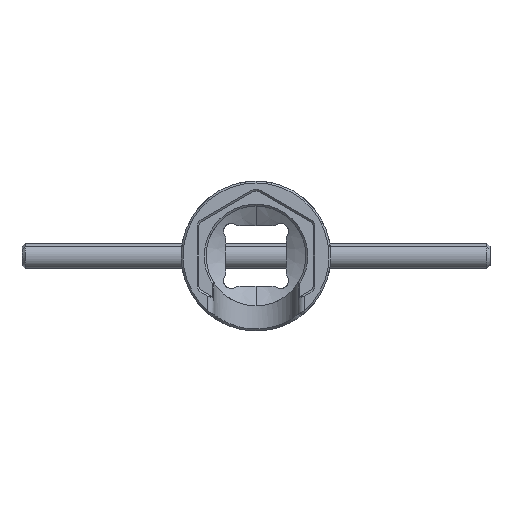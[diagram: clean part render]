
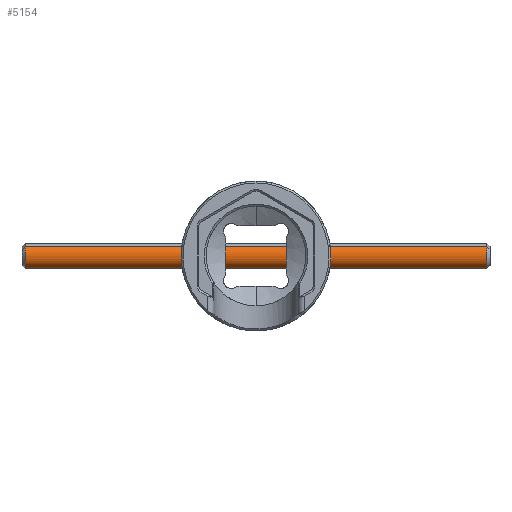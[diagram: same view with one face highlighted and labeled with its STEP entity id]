
A CAD part, front view. The second image highlights one B-rep face of the part: STEP entity #5154.
In plain terms, the highlighted cylindrical face has radius 2 mm (diameter 4 mm), a partial arc.
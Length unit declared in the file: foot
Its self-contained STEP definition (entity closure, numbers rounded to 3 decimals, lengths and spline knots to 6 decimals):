
#538 = CYLINDRICAL_SURFACE ( 'NONE', #5011, 0.006562 ) ;
#554 = DIRECTION ( 'NONE',  ( 1., 0., 0. ) ) ;
#591 = CARTESIAN_POINT ( 'NONE',  ( 0.123031, 0.16581, 0. ) ) ;
#1069 = LINE ( 'NONE', #9292, #4168 ) ;
#1166 = CARTESIAN_POINT ( 'NONE',  ( 0.121391, 0.161448, 0.004901 ) ) ;
#1343 = ORIENTED_EDGE ( 'NONE', *, *, #8592, .F. ) ;
#1352 = CARTESIAN_POINT ( 'NONE',  ( 0.123031, 0.170173, -0.004901 ) ) ;
#1686 = AXIS2_PLACEMENT_3D ( 'NONE', #7158, #554, #5461 ) ;
#1809 = CARTESIAN_POINT ( 'NONE',  ( 0.121391, 0.16581, 0. ) ) ;
#2032 = EDGE_CURVE ( 'NONE', #4979, #2906, #3365, .T. ) ;
#2061 = DIRECTION ( 'NONE',  ( -1., 0., 0. ) ) ;
#2092 = CARTESIAN_POINT ( 'NONE',  ( -0.121391, 0.170173, -0.004901 ) ) ;
#2309 = VERTEX_POINT ( 'NONE', #5649 ) ;
#2906 = VERTEX_POINT ( 'NONE', #2092 ) ;
#3365 = CIRCLE ( 'NONE', #1686, 0.006562 ) ;
#4168 = VECTOR ( 'NONE', #2061, 3.28084 ) ;
#4228 = DIRECTION ( 'NONE',  ( 0., 0.665, -0.747 ) ) ;
#4979 = VERTEX_POINT ( 'NONE', #9234 ) ;
#5011 = AXIS2_PLACEMENT_3D ( 'NONE', #591, #8672, #10357 ) ;
#5019 = EDGE_CURVE ( 'NONE', #6962, #4979, #1069, .T. ) ;
#5028 = DIRECTION ( 'NONE',  ( -1., 0., 0. ) ) ;
#5154 = ADVANCED_FACE ( 'NONE', ( #8617 ), #538, .T. ) ;
#5461 = DIRECTION ( 'NONE',  ( 0., 0.665, -0.747 ) ) ;
#5471 = ORIENTED_EDGE ( 'NONE', *, *, #6103, .T. ) ;
#5649 = CARTESIAN_POINT ( 'NONE',  ( 0.121391, 0.170173, -0.004901 ) ) ;
#6103 = EDGE_CURVE ( 'NONE', #2309, #6962, #6583, .T. ) ;
#6583 = CIRCLE ( 'NONE', #8084, 0.006562 ) ;
#6962 = VERTEX_POINT ( 'NONE', #1166 ) ;
#7014 = ORIENTED_EDGE ( 'NONE', *, *, #5019, .T. ) ;
#7158 = CARTESIAN_POINT ( 'NONE',  ( -0.121391, 0.16581, 0. ) ) ;
#7775 = ORIENTED_EDGE ( 'NONE', *, *, #2032, .T. ) ;
#8084 = AXIS2_PLACEMENT_3D ( 'NONE', #1809, #5028, #4228 ) ;
#8088 = EDGE_LOOP ( 'NONE', ( #1343, #5471, #7014, #7775 ) ) ;
#8434 = VECTOR ( 'NONE', #10210, 3.28084 ) ;
#8592 = EDGE_CURVE ( 'NONE', #2309, #2906, #9249, .T. ) ;
#8617 = FACE_OUTER_BOUND ( 'NONE', #8088, .T. ) ;
#8672 = DIRECTION ( 'NONE',  ( -1., 0., 0. ) ) ;
#9234 = CARTESIAN_POINT ( 'NONE',  ( -0.121391, 0.161448, 0.004901 ) ) ;
#9249 = LINE ( 'NONE', #1352, #8434 ) ;
#9292 = CARTESIAN_POINT ( 'NONE',  ( 0.123031, 0.161448, 0.004901 ) ) ;
#10210 = DIRECTION ( 'NONE',  ( -1., 0., 0. ) ) ;
#10357 = DIRECTION ( 'NONE',  ( 0., -0.665, 0.747 ) ) ;
